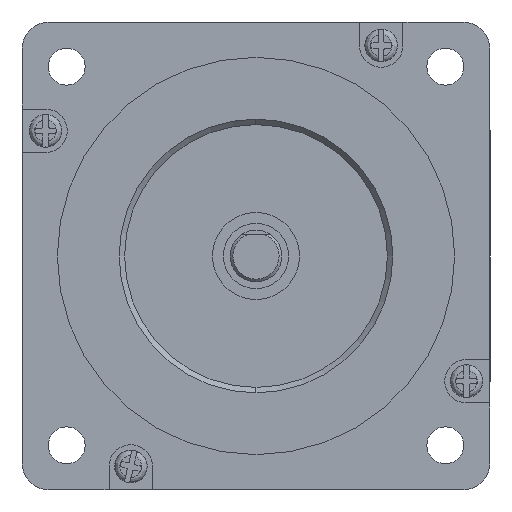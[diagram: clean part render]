
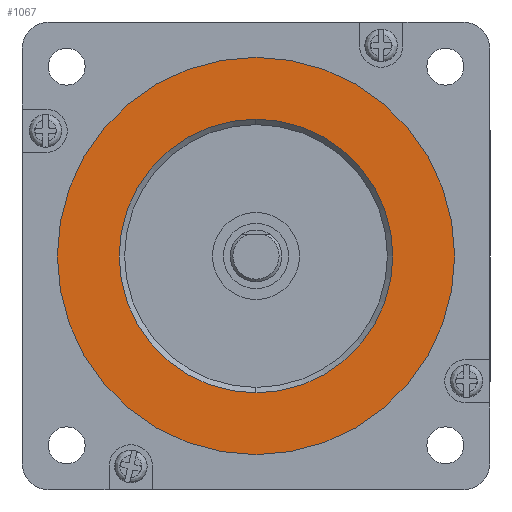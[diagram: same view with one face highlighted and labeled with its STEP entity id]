
A CAD part, left-side view. The second image highlights one B-rep face of the part: STEP entity #1067.
In plain terms, the highlighted planar face has unit normal (-1, 0, 0) as drawn and (0, 0, -1) by its records, which use the part's own axes.
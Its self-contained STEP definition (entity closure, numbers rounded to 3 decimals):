
#10 = DIRECTION ( 'NONE',  ( -1., 0., 0. ) ) ;
#34 = DIRECTION ( 'NONE',  ( 0., 0., -1. ) ) ;
#63 = CARTESIAN_POINT ( 'NONE',  ( 0., 0., -1.6 ) ) ;
#106 = DIRECTION ( 'NONE',  ( 0., 0., -1. ) ) ;
#320 = EDGE_CURVE ( 'NONE', #6751, #864, #4391, .T. ) ;
#453 = DIRECTION ( 'NONE',  ( 0., 0., -1. ) ) ;
#478 = DIRECTION ( 'NONE',  ( -1., 0., 0. ) ) ;
#600 = CARTESIAN_POINT ( 'NONE',  ( 0., 0., -1.6 ) ) ;
#818 = CARTESIAN_POINT ( 'NONE',  ( 0., 0., -1.6 ) ) ;
#864 = VERTEX_POINT ( 'NONE', #4637 ) ;
#1067 = ADVANCED_FACE ( 'NONE', ( #2938, #2994 ), #1859, .T. ) ;
#1222 = DIRECTION ( 'NONE',  ( 0., 0., -1. ) ) ;
#1247 = DIRECTION ( 'NONE',  ( -1., 0., 0. ) ) ;
#1444 = DIRECTION ( 'NONE',  ( -1., 0., 0. ) ) ;
#1566 = CARTESIAN_POINT ( 'NONE',  ( 36.5, 0., -1.6 ) ) ;
#1648 = EDGE_CURVE ( 'NONE', #5968, #5346, #1756, .T. ) ;
#1751 = EDGE_LOOP ( 'NONE', ( #5615, #2287 ) ) ;
#1756 = CIRCLE ( 'NONE', #2545, 25.153 ) ;
#1859 = PLANE ( 'NONE',  #1925 ) ;
#1883 = CARTESIAN_POINT ( 'NONE',  ( 0., 0., -1.6 ) ) ;
#1925 = AXIS2_PLACEMENT_3D ( 'NONE', #1883, #2303, #2338 ) ;
#2003 = CIRCLE ( 'NONE', #3417, 36.5 ) ;
#2287 = ORIENTED_EDGE ( 'NONE', *, *, #2992, .T. ) ;
#2303 = DIRECTION ( 'NONE',  ( 0., 0., -1. ) ) ;
#2338 = DIRECTION ( 'NONE',  ( -1., 0., 0. ) ) ;
#2545 = AXIS2_PLACEMENT_3D ( 'NONE', #818, #1222, #1247 ) ;
#2709 = EDGE_CURVE ( 'NONE', #5346, #5968, #5631, .T. ) ;
#2938 = FACE_BOUND ( 'NONE', #6329, .T. ) ;
#2992 = EDGE_CURVE ( 'NONE', #864, #6751, #2003, .T. ) ;
#2994 = FACE_OUTER_BOUND ( 'NONE', #1751, .T. ) ;
#3417 = AXIS2_PLACEMENT_3D ( 'NONE', #600, #453, #478 ) ;
#3488 = CARTESIAN_POINT ( 'NONE',  ( 0., 0., -1.6 ) ) ;
#3873 = CARTESIAN_POINT ( 'NONE',  ( -25.153, 0., -1.6 ) ) ;
#3924 = AXIS2_PLACEMENT_3D ( 'NONE', #63, #34, #10 ) ;
#4391 = CIRCLE ( 'NONE', #4848, 36.5 ) ;
#4521 = CARTESIAN_POINT ( 'NONE',  ( 25.153, 0., -1.6 ) ) ;
#4637 = CARTESIAN_POINT ( 'NONE',  ( -36.5, 0., -1.6 ) ) ;
#4848 = AXIS2_PLACEMENT_3D ( 'NONE', #3488, #106, #1444 ) ;
#5346 = VERTEX_POINT ( 'NONE', #3873 ) ;
#5615 = ORIENTED_EDGE ( 'NONE', *, *, #320, .T. ) ;
#5631 = CIRCLE ( 'NONE', #3924, 25.153 ) ;
#5968 = VERTEX_POINT ( 'NONE', #4521 ) ;
#6024 = ORIENTED_EDGE ( 'NONE', *, *, #1648, .F. ) ;
#6113 = ORIENTED_EDGE ( 'NONE', *, *, #2709, .F. ) ;
#6329 = EDGE_LOOP ( 'NONE', ( #6113, #6024 ) ) ;
#6751 = VERTEX_POINT ( 'NONE', #1566 ) ;
